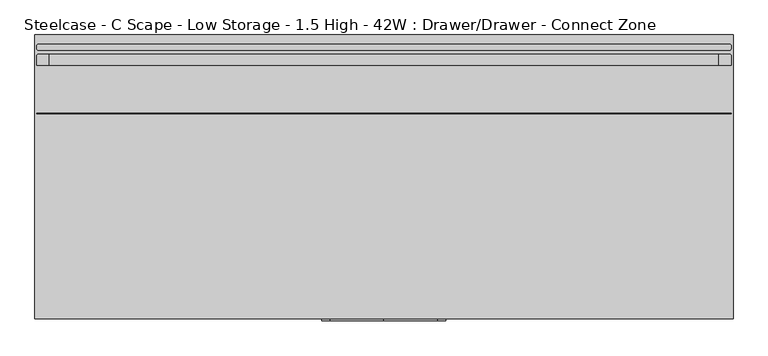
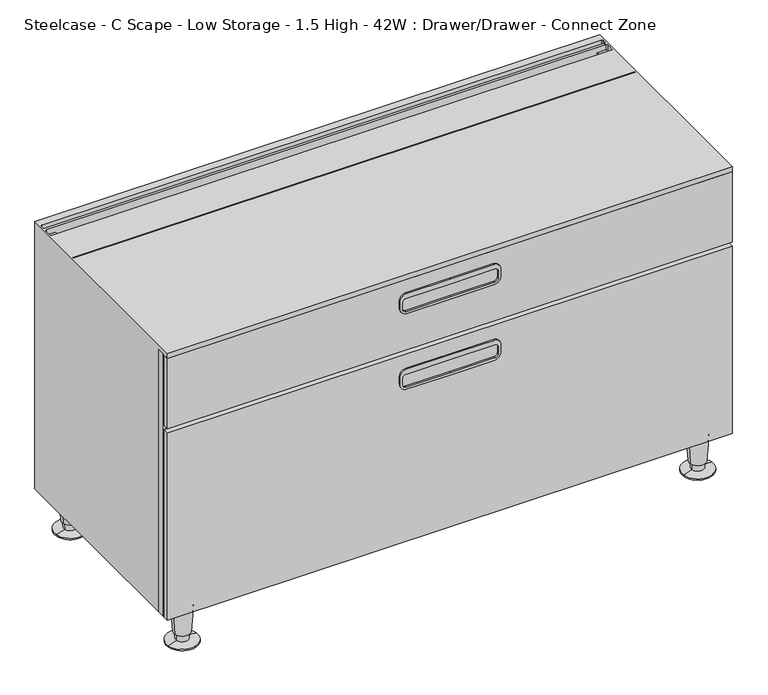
"""IFC4 building model written with IfcOpenShell, lengths in millimetres: furniture geometry, Steelcase - C Scape - Low Storage - 1.5 High - 42W : Drawer/Drawer - Connect Zone."""

from ifc_helpers import new_model, si_unit, point, frame, frame_2d, origin, place, context, project, spatial, polyline, circle_curve, trimmed, segment, composite_curve, outline, extrude, source, transform, mapped, element, save
from ifc_brep_helpers import plane_surface, cylinder_surface, revolved_surface, advanced_brep


def steelcase_c_scape_low_storage_1_5_high_42w_drawer_drawer_3f9bb7f9(model_context):
    return source(origin(), model_context, "Body", "SolidModel", [
        extrude(outline(polyline([(599.44, 532.2710512), (599.44, 0.0), (76.1999955, 0.0), (76.1999955, 1065.53), (599.44, 1065.53), (599.44, 532.2710512)]), holes=[polyline([(92.7100024, 1043.5617285), (92.7100024, 21.3382324), (582.93, 21.3382324), (582.93, 1043.5617285), (92.7100024, 1043.5617285)])]), frame((0.0, -419.3484735, 0.0), z_axis=(0.0, 1.0, 0.0), x_axis=(0.0, 0.0, 1.0)), (0.0, 0.0, 1.0), 14.9862946),
        extrude(outline(composite_curve([segment(trimmed(circle_curve(frame_2d((560.7050073, 450.2147442)), 12.7), [point((573.4050073, 450.2147442))], [point((560.7050073, 437.5147442))], False, "CARTESIAN"), True, "CONTINUOUS"), segment(polyline([(560.7050073, 437.5147442), (546.1000363, 437.5147442)]), True, "CONTINUOUS"), segment(trimmed(circle_curve(frame_2d((546.1000363, 450.2147442)), 12.7), [point((546.1000363, 437.5147442))], [point((533.4000363, 450.2147442))], False, "CARTESIAN"), True, "CONTINUOUS"), segment(polyline([(533.4000363, 450.2147442), (533.4000363, 532.4475), (533.4000363, 614.6802558)]), True, "CONTINUOUS"), segment(trimmed(circle_curve(frame_2d((546.1000363, 614.6802558)), 12.7), [point((533.4000363, 614.6802558))], [point((546.1000363, 627.3802558))], False, "CARTESIAN"), True, "CONTINUOUS"), segment(polyline([(546.1000363, 627.3802558), (560.7050073, 627.3802558)]), True, "CONTINUOUS"), segment(trimmed(circle_curve(frame_2d((560.7050073, 614.6802558)), 12.7), [point((560.7050073, 627.3802558))], [point((573.4050073, 614.6802558))], False, "CARTESIAN"), True, "CONTINUOUS"), segment(polyline([(573.4050073, 614.6802558), (573.4050073, 532.4475), (573.4050073, 450.2147442)]), True, "CONTINUOUS")], self_intersect=False), holes=[composite_curve([segment(trimmed(circle_curve(frame_2d((557.2760257, 448.6923565)), 6.35), [point((557.2760257, 442.3423565))], [point((563.6260257, 448.6923565))], True, "CARTESIAN"), True, "CONTINUOUS"), segment(polyline([(563.6260257, 448.6923565), (563.6260257, 532.4475), (563.6260257, 616.2026435)]), True, "CONTINUOUS"), segment(trimmed(circle_curve(frame_2d((557.2760257, 616.2026435)), 6.35), [point((563.6260257, 616.2026435))], [point((557.2760257, 622.5526435))], True, "CARTESIAN"), True, "CONTINUOUS"), segment(polyline([(557.2760257, 622.5526435), (544.5760136, 622.5526435)]), True, "CONTINUOUS"), segment(trimmed(circle_curve(frame_2d((544.5760136, 616.2026435)), 6.35), [point((544.5760136, 622.5526435))], [point((538.2260136, 616.2026435))], True, "CARTESIAN"), True, "CONTINUOUS"), segment(polyline([(538.2260136, 616.2026435), (538.2260136, 532.4475), (538.2260136, 448.6923565)]), True, "CONTINUOUS"), segment(trimmed(circle_curve(frame_2d((544.5760136, 448.6923565)), 6.35), [point((538.2260136, 448.6923565))], [point((544.5760136, 442.3423565))], True, "CARTESIAN"), True, "CONTINUOUS"), segment(polyline([(544.5760136, 442.3423565), (557.2760257, 442.3423565)]), True, "CONTINUOUS")], self_intersect=False)]), frame((0.0, -436.118, 0.0), z_axis=(0.0, 1.0, 0.0), x_axis=(0.0, 0.0, 1.0)), (0.0, 0.0, 1.0), 3.048),
        extrude(outline(composite_curve([segment(trimmed(circle_curve(frame_2d((409.5749879, 450.2147442)), 12.7), [point((422.2749879, 450.2147442))], [point((409.5749879, 437.5147442))], False, "CARTESIAN"), True, "CONTINUOUS"), segment(polyline([(409.5749879, 437.5147442), (394.970017, 437.5147442)]), True, "CONTINUOUS"), segment(trimmed(circle_curve(frame_2d((394.970017, 450.2147442)), 12.7), [point((394.970017, 437.5147442))], [point((382.270017, 450.2147442))], False, "CARTESIAN"), True, "CONTINUOUS"), segment(polyline([(382.270017, 450.2147442), (382.270017, 532.4475), (382.270017, 614.6802558)]), True, "CONTINUOUS"), segment(trimmed(circle_curve(frame_2d((394.970017, 614.6802558)), 12.7), [point((382.270017, 614.6802558))], [point((394.970017, 627.3802558))], False, "CARTESIAN"), True, "CONTINUOUS"), segment(polyline([(394.970017, 627.3802558), (409.5749879, 627.3802558)]), True, "CONTINUOUS"), segment(trimmed(circle_curve(frame_2d((409.5749879, 614.6802558)), 12.7), [point((409.5749879, 627.3802558))], [point((422.2749879, 614.6802558))], False, "CARTESIAN"), True, "CONTINUOUS"), segment(polyline([(422.2749879, 614.6802558), (422.2749879, 532.4475), (422.2749879, 450.2147442)]), True, "CONTINUOUS")], self_intersect=False), holes=[composite_curve([segment(trimmed(circle_curve(frame_2d((406.1460063, 448.6923565)), 6.35), [point((406.1460063, 442.3423565))], [point((412.4960063, 448.6923565))], True, "CARTESIAN"), True, "CONTINUOUS"), segment(polyline([(412.4960063, 448.6923565), (412.4960063, 532.4475), (412.4960063, 616.2026435)]), True, "CONTINUOUS"), segment(trimmed(circle_curve(frame_2d((406.1460063, 616.2026435)), 6.35), [point((412.4960063, 616.2026435))], [point((406.1460063, 622.5526435))], True, "CARTESIAN"), True, "CONTINUOUS"), segment(polyline([(406.1460063, 622.5526435), (393.4459942, 622.5526435)]), True, "CONTINUOUS"), segment(trimmed(circle_curve(frame_2d((393.4459942, 616.2026435)), 6.35), [point((393.4459942, 622.5526435))], [point((387.0959942, 616.2026435))], True, "CARTESIAN"), True, "CONTINUOUS"), segment(polyline([(387.0959942, 616.2026435), (387.0959942, 532.4475), (387.0959942, 448.6923565)]), True, "CONTINUOUS"), segment(trimmed(circle_curve(frame_2d((393.4459942, 448.6923565)), 6.35), [point((387.0959942, 448.6923565))], [point((393.4459942, 442.3423565))], True, "CARTESIAN"), True, "CONTINUOUS"), segment(polyline([(393.4459942, 442.3423565), (406.1460063, 442.3423565)]), True, "CONTINUOUS")], self_intersect=False)]), frame((0.0, -436.118, 0.0), z_axis=(0.0, 1.0, 0.0), x_axis=(0.0, 0.0, 1.0)), (0.0, 0.0, 1.0), 3.048),
        advanced_brep(
        [(1038.2598695, -31.5218435, 76.2), (1000.5981305, -37.2840847, 76.2), (1019.429, -34.4029641, 76.2), (1034.3095214, -32.1262463, 19.05), (1004.5484786, -36.6796819, 19.05), (1031.8799345, -32.4979728, 19.05), (1006.9780655, -36.3079555, 19.05), (1031.191165, -32.6033544, 5.7545598), (1007.666835, -36.2025738, 5.7545598), (1048.5400485, -29.9489775, 2.5119506), (990.3179515, -38.8569507, 2.5119506), (1048.5400485, -29.9489775, 0.0), (990.3179515, -38.8569507, 0.0), (1019.429, -34.4029641, 0.0)],
        [
            (0, 1, circle_curve(frame((1019.429, -34.4029641, 76.2), z_axis=(0.0, 0.0, 1.0), x_axis=(0.0, -1.0, 0.0)), 19.05)),
            (1, 2),
            (2, 0),
            (1, 0, circle_curve(frame((1019.429, -34.4029641, 76.2), z_axis=(0.0, 0.0, 1.0), x_axis=(0.0, -1.0, 0.0)), 19.05)),
            (3, 4, circle_curve(frame((1019.429, -34.4029641, 19.05), z_axis=(0.0, 0.0, 1.0), x_axis=(0.0, -1.0, 0.0)), 15.0536827)),
            (4, 1),
            (0, 3),
            (4, 3, circle_curve(frame((1019.429, -34.4029641, 19.05), z_axis=(0.0, 0.0, 1.0), x_axis=(0.0, -1.0, 0.0)), 15.0536827)),
            (5, 6, circle_curve(frame((1019.429, -34.4029641, 19.05), z_axis=(0.0, 0.0, 1.0), x_axis=(0.0, -1.0, 0.0)), 12.5958232)),
            (6, 4),
            (3, 5),
            (6, 5, circle_curve(frame((1019.429, -34.4029641, 19.05), z_axis=(0.0, 0.0, 1.0), x_axis=(0.0, -1.0, 0.0)), 12.5958232)),
            (7, 8, circle_curve(frame((1019.429, -34.4029641, 5.7545598), z_axis=(0.0, 0.0, 1.0), x_axis=(0.0, -1.0, 0.0)), 11.8990387)),
            (8, 6),
            (5, 7),
            (8, 7, circle_curve(frame((1019.429, -34.4029641, 5.7545598), z_axis=(0.0, 0.0, 1.0), x_axis=(0.0, -1.0, 0.0)), 11.8990387)),
            (9, 10, circle_curve(frame((1019.429, -34.4029641, 2.5119506), z_axis=(0.0, 0.0, 1.0), x_axis=(0.0, -1.0, 0.0)), 29.4498071)),
            (10, 8),
            (7, 9),
            (10, 9, circle_curve(frame((1019.429, -34.4029641, 2.5119506), z_axis=(0.0, 0.0, 1.0), x_axis=(0.0, -1.0, 0.0)), 29.4498071)),
            (11, 12, circle_curve(frame((1019.429, -34.4029641, 0.0), z_axis=(0.0, 0.0, 1.0), x_axis=(0.0, -1.0, 0.0)), 29.4498071)),
            (12, 10),
            (9, 11),
            (12, 11, circle_curve(frame((1019.429, -34.4029641, 0.0), z_axis=(0.0, 0.0, 1.0), x_axis=(0.0, -1.0, 0.0)), 29.4498071)),
            (13, 12),
            (11, 13),
        ],
        [
            plane_surface(frame((1019.429, -34.4029641, 76.2), z_axis=(0.0, 0.0, 1.0), x_axis=(0.0, -1.0, 0.0))),
            revolved_surface(polyline([(1019.429, -53.4529641, 76.2), (1019.429, -49.4566468, 19.05)]), (1019.429, -34.4029641, 25.4), (0.0, 0.0, -1.0)),
            plane_surface(frame((1019.429, -34.4029641, 19.05), z_axis=(0.0, 0.0, -1.0), x_axis=(0.0, -1.0, 0.0))),
            revolved_surface(polyline([(1019.429, -46.9987873, 19.05), (1019.429, -46.3020028, 5.7545598)]), (1019.429, -34.4029641, 25.4), (0.0, 0.0, -1.0)),
            revolved_surface(polyline([(1019.429, -46.3020028, 5.7545598), (1019.429, -63.8527712, 2.5119506)]), (1019.429, -34.4029641, 25.4), (0.0, 0.0, -1.0)),
            cylinder_surface(frame((1019.429, -34.4029641, 25.4), z_axis=(0.0, 0.0, -1.0), x_axis=(0.0, -1.0, 0.0)), 29.4498071),
            plane_surface(frame((1019.429, -34.4029641, 0.0), z_axis=(0.0, 0.0, -1.0), x_axis=(0.0, -1.0, 0.0))),
        ],
        [
            (0, [[1, 2, 3]]),
            (0, [[4, -3, -2]]),
            (1, [[5, 6, -1, 7]]),
            (1, [[8, -7, -4, -6]]),
            (2, [[9, 10, -5, 11]]),
            (2, [[12, -11, -8, -10]]),
            (3, [[13, 14, -9, 15]]),
            (3, [[16, -15, -12, -14]]),
            (4, [[17, 18, -13, 19]]),
            (4, [[20, -19, -16, -18]]),
            (5, [[21, 22, -17, 23]]),
            (5, [[24, -23, -20, -22]]),
            (6, [[25, -21, 26]]),
            (6, [[-26, -24, -25]]),
        ],
    ),
        advanced_brep(
        [(1038.2598695, -397.1702762, 76.2), (1000.5981305, -402.9325174, 76.2), (1019.429, -400.0513968, 76.2), (1034.3095214, -397.774679, 19.05), (1004.5484786, -402.3281146, 19.05), (1031.8799345, -398.1464055, 19.05), (1006.9780655, -401.9563882, 19.05), (1031.191165, -398.2517871, 5.7545598), (1007.666835, -401.8510065, 5.7545598), (1048.5400485, -395.5974102, 2.5119506), (990.3179515, -404.5053834, 2.5119506), (1048.5400485, -395.5974102, 0.0), (990.3179515, -404.5053834, 0.0), (1019.429, -400.0513968, 0.0)],
        [
            (0, 1, circle_curve(frame((1019.429, -400.0513968, 76.2), z_axis=(0.0, 0.0, 1.0), x_axis=(0.0, -1.0, 0.0)), 19.05)),
            (1, 2),
            (2, 0),
            (1, 0, circle_curve(frame((1019.429, -400.0513968, 76.2), z_axis=(0.0, 0.0, 1.0), x_axis=(0.0, -1.0, 0.0)), 19.05)),
            (3, 4, circle_curve(frame((1019.429, -400.0513968, 19.05), z_axis=(0.0, 0.0, 1.0), x_axis=(0.0, -1.0, 0.0)), 15.0536827)),
            (4, 1),
            (0, 3),
            (4, 3, circle_curve(frame((1019.429, -400.0513968, 19.05), z_axis=(0.0, 0.0, 1.0), x_axis=(0.0, -1.0, 0.0)), 15.0536827)),
            (5, 6, circle_curve(frame((1019.429, -400.0513968, 19.05), z_axis=(0.0, 0.0, 1.0), x_axis=(0.0, -1.0, 0.0)), 12.5958232)),
            (6, 4),
            (3, 5),
            (6, 5, circle_curve(frame((1019.429, -400.0513968, 19.05), z_axis=(0.0, 0.0, 1.0), x_axis=(0.0, -1.0, 0.0)), 12.5958232)),
            (7, 8, circle_curve(frame((1019.429, -400.0513968, 5.7545598), z_axis=(0.0, 0.0, 1.0), x_axis=(0.0, -1.0, 0.0)), 11.8990387)),
            (8, 6),
            (5, 7),
            (8, 7, circle_curve(frame((1019.429, -400.0513968, 5.7545598), z_axis=(0.0, 0.0, 1.0), x_axis=(0.0, -1.0, 0.0)), 11.8990387)),
            (9, 10, circle_curve(frame((1019.429, -400.0513968, 2.5119506), z_axis=(0.0, 0.0, 1.0), x_axis=(0.0, -1.0, 0.0)), 29.4498071)),
            (10, 8),
            (7, 9),
            (10, 9, circle_curve(frame((1019.429, -400.0513968, 2.5119506), z_axis=(0.0, 0.0, 1.0), x_axis=(0.0, -1.0, 0.0)), 29.4498071)),
            (11, 12, circle_curve(frame((1019.429, -400.0513968, 0.0), z_axis=(0.0, 0.0, 1.0), x_axis=(0.0, -1.0, 0.0)), 29.4498071)),
            (12, 10),
            (9, 11),
            (12, 11, circle_curve(frame((1019.429, -400.0513968, 0.0), z_axis=(0.0, 0.0, 1.0), x_axis=(0.0, -1.0, 0.0)), 29.4498071)),
            (13, 12),
            (11, 13),
        ],
        [
            plane_surface(frame((1019.429, -400.0513968, 76.2), z_axis=(0.0, 0.0, 1.0), x_axis=(0.0, -1.0, 0.0))),
            revolved_surface(polyline([(1019.429, -419.1013968, 76.2), (1019.429, -415.1050795, 19.05)]), (1019.429, -400.0513968, 25.4), (0.0, 0.0, -1.0)),
            plane_surface(frame((1019.429, -400.0513968, 19.05), z_axis=(0.0, 0.0, -1.0), x_axis=(0.0, -1.0, 0.0))),
            revolved_surface(polyline([(1019.429, -412.64722, 19.05), (1019.429, -411.9504355, 5.7545598)]), (1019.429, -400.0513968, 25.4), (0.0, 0.0, -1.0)),
            revolved_surface(polyline([(1019.429, -411.9504355, 5.7545598), (1019.429, -429.5012039, 2.5119506)]), (1019.429, -400.0513968, 25.4), (0.0, 0.0, -1.0)),
            cylinder_surface(frame((1019.429, -400.0513968, 25.4), z_axis=(0.0, 0.0, -1.0), x_axis=(0.0, -1.0, 0.0)), 29.4498071),
            plane_surface(frame((1019.429, -400.0513968, 0.0), z_axis=(0.0, 0.0, -1.0), x_axis=(0.0, -1.0, 0.0))),
        ],
        [
            (0, [[1, 2, 3]]),
            (0, [[4, -3, -2]]),
            (1, [[5, 6, -1, 7]]),
            (1, [[8, -7, -4, -6]]),
            (2, [[9, 10, -5, 11]]),
            (2, [[12, -11, -8, -10]]),
            (3, [[13, 14, -9, 15]]),
            (3, [[16, -15, -12, -14]]),
            (4, [[17, 18, -13, 19]]),
            (4, [[20, -19, -16, -18]]),
            (5, [[21, 22, -17, 23]]),
            (5, [[24, -23, -20, -22]]),
            (6, [[25, -21, 26]]),
            (6, [[-26, -24, -25]]),
        ],
    ),
        advanced_brep(
        [(65.5422821, -397.1702762, 76.2), (27.8805432, -402.9325174, 76.2), (46.7114126, -400.0513968, 76.2), (61.5919341, -397.774679, 19.05), (31.8308912, -402.3281146, 19.05), (59.1623471, -398.1464055, 19.05), (34.2604781, -401.9563882, 19.05), (58.4735776, -398.2517871, 5.7545598), (34.9492476, -401.8510065, 5.7545598), (75.8224611, -395.5974102, 2.5119506), (17.6003641, -404.5053834, 2.5119506), (75.8224611, -395.5974102, 0.0), (17.6003641, -404.5053834, 0.0), (46.7114126, -400.0513968, 0.0)],
        [
            (0, 1, circle_curve(frame((46.7114126, -400.0513968, 76.2), z_axis=(0.0, 0.0, 1.0), x_axis=(0.0, -1.0, 0.0)), 19.05)),
            (1, 2),
            (2, 0),
            (1, 0, circle_curve(frame((46.7114126, -400.0513968, 76.2), z_axis=(0.0, 0.0, 1.0), x_axis=(0.0, -1.0, 0.0)), 19.05)),
            (3, 4, circle_curve(frame((46.7114126, -400.0513968, 19.05), z_axis=(0.0, 0.0, 1.0), x_axis=(0.0, -1.0, 0.0)), 15.0536827)),
            (4, 1),
            (0, 3),
            (4, 3, circle_curve(frame((46.7114126, -400.0513968, 19.05), z_axis=(0.0, 0.0, 1.0), x_axis=(0.0, -1.0, 0.0)), 15.0536827)),
            (5, 6, circle_curve(frame((46.7114126, -400.0513968, 19.05), z_axis=(0.0, 0.0, 1.0), x_axis=(0.0, -1.0, 0.0)), 12.5958232)),
            (6, 4),
            (3, 5),
            (6, 5, circle_curve(frame((46.7114126, -400.0513968, 19.05), z_axis=(0.0, 0.0, 1.0), x_axis=(0.0, -1.0, 0.0)), 12.5958232)),
            (7, 8, circle_curve(frame((46.7114126, -400.0513968, 5.7545598), z_axis=(0.0, 0.0, 1.0), x_axis=(0.0, -1.0, 0.0)), 11.8990387)),
            (8, 6),
            (5, 7),
            (8, 7, circle_curve(frame((46.7114126, -400.0513968, 5.7545598), z_axis=(0.0, 0.0, 1.0), x_axis=(0.0, -1.0, 0.0)), 11.8990387)),
            (9, 10, circle_curve(frame((46.7114126, -400.0513968, 2.5119506), z_axis=(0.0, 0.0, 1.0), x_axis=(0.0, -1.0, 0.0)), 29.4498071)),
            (10, 8),
            (7, 9),
            (10, 9, circle_curve(frame((46.7114126, -400.0513968, 2.5119506), z_axis=(0.0, 0.0, 1.0), x_axis=(0.0, -1.0, 0.0)), 29.4498071)),
            (11, 12, circle_curve(frame((46.7114126, -400.0513968, 0.0), z_axis=(0.0, 0.0, 1.0), x_axis=(0.0, -1.0, 0.0)), 29.4498071)),
            (12, 10),
            (9, 11),
            (12, 11, circle_curve(frame((46.7114126, -400.0513968, 0.0), z_axis=(0.0, 0.0, 1.0), x_axis=(0.0, -1.0, 0.0)), 29.4498071)),
            (13, 12),
            (11, 13),
        ],
        [
            plane_surface(frame((46.7114126, -400.0513968, 76.2), z_axis=(0.0, 0.0, 1.0), x_axis=(0.0, -1.0, 0.0))),
            revolved_surface(polyline([(46.7114126, -419.1013968, 76.2), (46.7114126, -415.1050795, 19.05)]), (46.7114126, -400.0513968, 25.4), (0.0, 0.0, -1.0)),
            plane_surface(frame((46.7114126, -400.0513968, 19.05), z_axis=(0.0, 0.0, -1.0), x_axis=(0.0, -1.0, 0.0))),
            revolved_surface(polyline([(46.7114126, -412.64722, 19.05), (46.7114126, -411.9504355, 5.7545598)]), (46.7114126, -400.0513968, 25.4), (0.0, 0.0, -1.0)),
            revolved_surface(polyline([(46.7114126, -411.9504355, 5.7545598), (46.7114126, -429.5012039, 2.5119506)]), (46.7114126, -400.0513968, 25.4), (0.0, 0.0, -1.0)),
            cylinder_surface(frame((46.7114126, -400.0513968, 25.4), z_axis=(0.0, 0.0, -1.0), x_axis=(0.0, -1.0, 0.0)), 29.4498071),
            plane_surface(frame((46.7114126, -400.0513968, 0.0), z_axis=(0.0, 0.0, -1.0), x_axis=(0.0, -1.0, 0.0))),
        ],
        [
            (0, [[1, 2, 3]]),
            (0, [[4, -3, -2]]),
            (1, [[5, 6, -1, 7]]),
            (1, [[8, -7, -4, -6]]),
            (2, [[9, 10, -5, 11]]),
            (2, [[12, -11, -8, -10]]),
            (3, [[13, 14, -9, 15]]),
            (3, [[16, -15, -12, -14]]),
            (4, [[17, 18, -13, 19]]),
            (4, [[20, -19, -16, -18]]),
            (5, [[21, 22, -17, 23]]),
            (5, [[24, -23, -20, -22]]),
            (6, [[25, -21, 26]]),
            (6, [[-26, -24, -25]]),
        ],
    ),
        advanced_brep(
        [(65.5422821, -31.5218435, 76.2), (27.8805432, -37.2840847, 76.2), (46.7114126, -34.4029641, 76.2), (61.5919341, -32.1262463, 19.05), (31.8308912, -36.6796819, 19.05), (59.1623471, -32.4979728, 19.05), (34.2604781, -36.3079555, 19.05), (58.4735776, -32.6033544, 5.7545598), (34.9492476, -36.2025738, 5.7545598), (75.8224611, -29.9489775, 2.5119506), (17.6003641, -38.8569507, 2.5119506), (75.8224611, -29.9489775, 0.0), (17.6003641, -38.8569507, 0.0), (46.7114126, -34.4029641, 0.0)],
        [
            (0, 1, circle_curve(frame((46.7114126, -34.4029641, 76.2), z_axis=(0.0, 0.0, 1.0), x_axis=(0.0, -1.0, 0.0)), 19.05)),
            (1, 2),
            (2, 0),
            (1, 0, circle_curve(frame((46.7114126, -34.4029641, 76.2), z_axis=(0.0, 0.0, 1.0), x_axis=(0.0, -1.0, 0.0)), 19.05)),
            (3, 4, circle_curve(frame((46.7114126, -34.4029641, 19.05), z_axis=(0.0, 0.0, 1.0), x_axis=(0.0, -1.0, 0.0)), 15.0536827)),
            (4, 1),
            (0, 3),
            (4, 3, circle_curve(frame((46.7114126, -34.4029641, 19.05), z_axis=(0.0, 0.0, 1.0), x_axis=(0.0, -1.0, 0.0)), 15.0536827)),
            (5, 6, circle_curve(frame((46.7114126, -34.4029641, 19.05), z_axis=(0.0, 0.0, 1.0), x_axis=(0.0, -1.0, 0.0)), 12.5958232)),
            (6, 4),
            (3, 5),
            (6, 5, circle_curve(frame((46.7114126, -34.4029641, 19.05), z_axis=(0.0, 0.0, 1.0), x_axis=(0.0, -1.0, 0.0)), 12.5958232)),
            (7, 8, circle_curve(frame((46.7114126, -34.4029641, 5.7545598), z_axis=(0.0, 0.0, 1.0), x_axis=(0.0, -1.0, 0.0)), 11.8990387)),
            (8, 6),
            (5, 7),
            (8, 7, circle_curve(frame((46.7114126, -34.4029641, 5.7545598), z_axis=(0.0, 0.0, 1.0), x_axis=(0.0, -1.0, 0.0)), 11.8990387)),
            (9, 10, circle_curve(frame((46.7114126, -34.4029641, 2.5119506), z_axis=(0.0, 0.0, 1.0), x_axis=(0.0, -1.0, 0.0)), 29.4498071)),
            (10, 8),
            (7, 9),
            (10, 9, circle_curve(frame((46.7114126, -34.4029641, 2.5119506), z_axis=(0.0, 0.0, 1.0), x_axis=(0.0, -1.0, 0.0)), 29.4498071)),
            (11, 12, circle_curve(frame((46.7114126, -34.4029641, 0.0), z_axis=(0.0, 0.0, 1.0), x_axis=(0.0, -1.0, 0.0)), 29.4498071)),
            (12, 10),
            (9, 11),
            (12, 11, circle_curve(frame((46.7114126, -34.4029641, 0.0), z_axis=(0.0, 0.0, 1.0), x_axis=(0.0, -1.0, 0.0)), 29.4498071)),
            (13, 12),
            (11, 13),
        ],
        [
            plane_surface(frame((46.7114126, -34.4029641, 76.2), z_axis=(0.0, 0.0, 1.0), x_axis=(0.0, -1.0, 0.0))),
            revolved_surface(polyline([(46.7114126, -53.4529641, 76.2), (46.7114126, -49.4566468, 19.05)]), (46.7114126, -34.4029641, 25.4), (0.0, 0.0, -1.0)),
            plane_surface(frame((46.7114126, -34.4029641, 19.05), z_axis=(0.0, 0.0, -1.0), x_axis=(0.0, -1.0, 0.0))),
            revolved_surface(polyline([(46.7114126, -46.9987873, 19.05), (46.7114126, -46.3020028, 5.7545598)]), (46.7114126, -34.4029641, 25.4), (0.0, 0.0, -1.0)),
            revolved_surface(polyline([(46.7114126, -46.3020028, 5.7545598), (46.7114126, -63.8527712, 2.5119506)]), (46.7114126, -34.4029641, 25.4), (0.0, 0.0, -1.0)),
            cylinder_surface(frame((46.7114126, -34.4029641, 25.4), z_axis=(0.0, 0.0, -1.0), x_axis=(0.0, -1.0, 0.0)), 29.4498071),
            plane_surface(frame((46.7114126, -34.4029641, 0.0), z_axis=(0.0, 0.0, -1.0), x_axis=(0.0, -1.0, 0.0))),
        ],
        [
            (0, [[1, 2, 3]]),
            (0, [[4, -3, -2]]),
            (1, [[5, 6, -1, 7]]),
            (1, [[8, -7, -4, -6]]),
            (2, [[9, 10, -5, 11]]),
            (2, [[12, -11, -8, -10]]),
            (3, [[13, 14, -9, 15]]),
            (3, [[16, -15, -12, -14]]),
            (4, [[17, 18, -13, 19]]),
            (4, [[20, -19, -16, -18]]),
            (5, [[21, 22, -17, 23]]),
            (5, [[24, -23, -20, -22]]),
            (6, [[25, -21, 26]]),
            (6, [[-26, -24, -25]]),
        ],
    ),
        advanced_brep(
        [(1062.7272317, -120.6444193, 609.6), (1062.7272317, -119.3775195, 609.6), (1062.7272317, -119.3775195, 599.44), (1062.7272317, -120.6444193, 599.44), (1062.7272317, -46.4703418, 609.6), (1062.7272317, -32.274699, 609.6), (1062.7272317, -32.274699, 599.44), (1062.7272317, -46.4703418, 599.44), (1062.7272317, -20.3138654, 609.6), (1062.7272317, -17.0388453, 609.6), (1062.7272317, -17.0388453, 599.44), (1062.7272317, -20.3138654, 599.44), (1065.53, 0.0055807, 609.6), (1065.53, -433.07, 609.6), (1065.53, -433.07, 599.44), (1065.53, -404.362179, 599.44), (1065.53, -404.362179, 76.2), (1065.53, 0.0055807, 76.2), (0.0, -433.07, 609.6), (-0.012551, 0.0055807, 609.6), (1060.0308823, -29.5783496, 609.6), (2.7826272, -46.4703418, 609.6), (2.7826272, -32.0458511, 609.6), (5.2501287, -29.5783496, 609.6), (1059.7507358, -23.2903613, 609.6), (5.5670648, -23.2903613, 609.6), (2.7826272, -20.5059237, 609.6), (2.7826272, -17.0388453, 609.6), (5.4794022, -14.3420703, 609.6), (1060.0304567, -14.3420703, 609.6), (2.7826272, -119.3775195, 609.6), (2.7826272, -120.6444193, 609.6), (0.0, 0.0055807, 76.2), (648.0775189, 0.0055807, 466.2677968), (416.8174811, 0.0055807, 466.2677968), (416.8174811, 0.0055807, 432.6382043), (532.4475, 0.0055807, 432.6382043), (648.0775189, 0.0055807, 432.6382043), (648.0775189, -9.5194193, 466.2677968), (416.8174811, -9.5194193, 466.2677968), (648.0775189, -9.5194193, 435.8005068), (416.8174811, -9.5194193, 435.8005068), (5.2501287, -29.5783496, 599.44), (21.3382324, -29.5783496, 599.44), (21.3382324, -29.5783496, 458.7875121), (1043.5617285, -29.5783496, 458.7875121), (1043.5617285, -29.5783496, 599.44), (1060.0308823, -29.5783496, 599.44), (1043.5617285, -119.3775195, 599.44), (21.3382324, -119.3775195, 599.44), (21.3382324, -46.4703418, 599.44), (1043.5617285, -46.4703418, 599.44), (1059.7507358, -23.2903613, 599.44), (5.5670648, -23.2903613, 599.44), (2.7826272, -20.5059237, 599.44), (2.7826272, -32.0458511, 599.44), (2.7826272, -46.4703418, 599.44), (2.7826272, -119.3775195, 599.44), (5.4794022, -14.3420703, 599.44), (1060.0304567, -14.3420703, 599.44), (2.7826272, -17.0388453, 599.44), (21.3382324, -120.6444193, 599.44), (2.7826272, -120.6444193, 599.44), (1043.5617285, -120.6444193, 599.44), (21.3382324, -404.362179, 92.7100024), (1043.5617285, -404.362179, 92.7100024), (1043.5617285, -9.5194193, 92.7100024), (21.3382324, -9.5194193, 92.7100024), (0.0, -404.362179, 76.2), (21.3382324, -404.362179, 458.7875121), (21.3382324, -404.362179, 599.44), (0.0, -404.362179, 599.44), (1043.5617285, -404.362179, 599.44), (1043.5617285, -404.362179, 458.7875121), (21.3382324, -404.362179, 435.8005068), (1043.5617285, -404.362179, 435.8005068), (0.0, -433.07, 599.44), (21.3382324, -126.9863574, 599.44), (1043.5617285, -126.9863574, 599.44), (21.3382324, -126.9863574, 458.7875121), (1043.5617285, -126.9863574, 458.7875121), (1043.5617285, -120.6444193, 458.7875121), (21.3382324, -120.6444193, 458.7875121), (21.3382324, -9.5194193, 435.8005068), (1043.5617285, -9.5194193, 435.8005068), (648.0775189, -9.5194193, 432.6382043), (532.4475, -9.5194193, 432.6382043), (416.8174811, -9.5194193, 432.6382043)],
        [
            (0, 1),
            (1, 2),
            (2, 3),
            (3, 0),
            (4, 5),
            (5, 6),
            (6, 7),
            (7, 4),
            (8, 9),
            (9, 10),
            (10, 11),
            (11, 8),
            (12, 13),
            (13, 14),
            (14, 15),
            (15, 16),
            (16, 17),
            (17, 12),
            (18, 13),
            (12, 19),
            (19, 18),
            (20, 5, circle_curve(frame((1060.0308823, -32.274699, 609.6), z_axis=(0.0, 0.0, -1.0), x_axis=(1.0, 0.0, 0.0)), 2.6963494)),
            (4, 21),
            (21, 22),
            (22, 23, circle_curve(frame((5.2501287, -32.0458511, 609.6), z_axis=(0.0, 0.0, -1.0), x_axis=(1.0, 0.0, 0.0)), 2.4675015)),
            (23, 20),
            (8, 24, circle_curve(frame((1059.7507358, -20.3138654, 609.6), z_axis=(0.0, 0.0, -1.0), x_axis=(1.0, 0.0, 0.0)), 2.9764959)),
            (24, 25),
            (25, 26, circle_curve(frame((5.5670648, -20.5059237, 609.6), z_axis=(0.0, 0.0, -1.0), x_axis=(1.0, 0.0, 0.0)), 2.7844376)),
            (26, 27),
            (27, 28, circle_curve(frame((5.4794022, -17.0388453, 609.6), z_axis=(0.0, 0.0, -1.0), x_axis=(1.0, 0.0, 0.0)), 2.696775)),
            (28, 29),
            (29, 9, circle_curve(frame((1060.0304567, -17.0388453, 609.6), z_axis=(0.0, 0.0, -1.0), x_axis=(1.0, 0.0, 0.0)), 2.696775)),
            (30, 1),
            (0, 31),
            (31, 30),
            (17, 32),
            (32, 19),
            (33, 34),
            (34, 35),
            (35, 36),
            (36, 37),
            (37, 33),
            (33, 38),
            (38, 39),
            (39, 34),
            (38, 40),
            (40, 41),
            (41, 39),
            (23, 42),
            (42, 43),
            (43, 44),
            (44, 45),
            (45, 46),
            (46, 47),
            (47, 20),
            (48, 49),
            (49, 50),
            (50, 51),
            (51, 48),
            (47, 6, circle_curve(frame((1060.0308823, -32.274699, 599.44), z_axis=(0.0, 0.0, -1.0), x_axis=(1.0, 0.0, 0.0)), 2.6963494)),
            (11, 52, circle_curve(frame((1059.7507358, -20.3138654, 599.44), z_axis=(0.0, 0.0, -1.0), x_axis=(1.0, 0.0, 0.0)), 2.9764959)),
            (52, 24),
            (52, 53),
            (53, 25),
            (53, 54, circle_curve(frame((5.5670648, -20.5059237, 599.44), z_axis=(0.0, 0.0, -1.0), x_axis=(1.0, 0.0, 0.0)), 2.7844376)),
            (54, 26),
            (22, 55),
            (55, 42, circle_curve(frame((5.2501287, -32.0458511, 599.44), z_axis=(0.0, 0.0, -1.0), x_axis=(1.0, 0.0, 0.0)), 2.4675015)),
            (7, 51),
            (50, 56),
            (56, 21),
            (30, 57),
            (57, 49),
            (48, 2),
            (28, 58),
            (58, 59),
            (59, 29),
            (59, 10, circle_curve(frame((1060.0304567, -17.0388453, 599.44), z_axis=(0.0, 0.0, -1.0), x_axis=(1.0, 0.0, 0.0)), 2.696775)),
            (27, 60),
            (60, 58, circle_curve(frame((5.4794022, -17.0388453, 599.44), z_axis=(0.0, 0.0, -1.0), x_axis=(1.0, 0.0, 0.0)), 2.696775)),
            (61, 49),
            (57, 62),
            (62, 61),
            (48, 63),
            (63, 3),
            (60, 54),
            (50, 43),
            (55, 56),
            (46, 51),
            (64, 65),
            (65, 66),
            (66, 67),
            (67, 64),
            (16, 68),
            (68, 32),
            (69, 70),
            (70, 71),
            (71, 68),
            (15, 72),
            (72, 73),
            (73, 69),
            (64, 74),
            (74, 75),
            (75, 65),
            (18, 76),
            (76, 14),
            (76, 71),
            (70, 77),
            (77, 78),
            (78, 72),
            (77, 79),
            (79, 80),
            (80, 78),
            (63, 81),
            (81, 82),
            (82, 61),
            (62, 31),
            (44, 82),
            (81, 45),
            (79, 69),
            (73, 80),
            (74, 83),
            (83, 41),
            (40, 84),
            (84, 75),
            (67, 83),
            (84, 66),
            (85, 86),
            (86, 87),
            (87, 41),
            (40, 85),
            (37, 85),
            (36, 86),
            (35, 87),
        ],
        [
            plane_surface(frame((1062.7272317, -120.6444193, 609.6), z_axis=(-1.0, 0.0, 0.0), x_axis=(0.0, 0.0, 1.0))),
            plane_surface(frame((1065.53, -120.6444193, 609.6), z_axis=(1.0, 0.0, 0.0), x_axis=(0.0, 0.0, -1.0))),
            plane_surface(frame((1062.7272317, -120.6444193, 609.6), z_axis=(0.0, 0.0, 1.0), x_axis=(1.0, 0.0, 0.0))),
            plane_surface(frame((1062.7272317, 0.0055807, 609.6), z_axis=(0.0, 1.0, 0.0), x_axis=(1.0, 0.0, 0.0))),
            plane_surface(frame((1062.7272317, 0.0055807, 466.2677968), z_axis=(0.0, 0.0, -1.0), x_axis=(1.0, 0.0, 0.0))),
            plane_surface(frame((1062.7272317, -9.5194193, 466.2677968), z_axis=(0.0, 1.0, 0.0), x_axis=(1.0, 0.0, 0.0))),
            plane_surface(frame((1062.7272317, -29.5783496, 458.7875121), z_axis=(0.0, -1.0, 0.0), x_axis=(1.0, 0.0, 0.0))),
            plane_surface(frame((1062.7272317, -29.5783496, 599.44), z_axis=(0.0, 0.0, -1.0), x_axis=(1.0, 0.0, 0.0))),
            revolved_surface(polyline([(1062.7272317, -32.274699, 599.44), (1062.7272317, -32.274699, 609.6)]), (1060.0308823, -32.274699, 599.44), (0.0, 0.0, -1.0)),
            revolved_surface(polyline([(1062.7272317, -20.3138654, 599.44), (1062.7272317, -20.3138654, 609.6)]), (1059.7507358, -20.3138654, 599.44), (0.0, 0.0, -1.0)),
            plane_surface(frame((1059.7507358, -23.2903613, 609.6), z_axis=(0.0, 1.0, 0.0), x_axis=(0.0, 0.0, -1.0))),
            revolved_surface(polyline([(8.3515024, -20.5059237, 599.44), (8.3515024, -20.5059237, 609.6)]), (5.5670648, -20.5059237, 599.44), (0.0, 0.0, -1.0)),
            revolved_surface(polyline([(7.7176302, -32.0458511, 599.44), (7.7176302, -32.0458511, 609.6)]), (5.2501287, -32.0458511, 599.44), (0.0, 0.0, -1.0)),
            plane_surface(frame((1062.7272317, -46.4703418, 609.6), z_axis=(0.0, 1.0, 0.0), x_axis=(0.0, 0.0, -1.0))),
            plane_surface(frame((2.7826272, -119.3775195, 609.6), z_axis=(0.0, -1.0, 0.0), x_axis=(0.0, 0.0, -1.0))),
            plane_surface(frame((5.4794022, -14.3420703, 609.6), z_axis=(0.0, -1.0, 0.0), x_axis=(0.0, 0.0, -1.0))),
            revolved_surface(polyline([(1062.7272317, -17.0388453, 599.44), (1062.7272317, -17.0388453, 609.6)]), (1060.0304567, -17.0388453, 41.6295811), (0.0, 0.0, -1.0)),
            revolved_surface(polyline([(8.1761772, -17.0388453, 599.44), (8.1761772, -17.0388453, 609.6)]), (5.4794022, -17.0388453, 41.6295811), (0.0, 0.0, -1.0)),
            plane_surface(frame((1062.7272317, 0.0055807, 599.44), z_axis=(0.0, 0.0, 1.0), x_axis=(-1.0, 0.0, 0.0))),
            plane_surface(frame((0.0, 0.0, 92.7100024), z_axis=(0.0, 0.0, 1.0), x_axis=(-1.0, 0.0, 0.0))),
            plane_surface(frame((0.0, 0.0, 76.2), z_axis=(0.0, 0.0, -1.0), x_axis=(1.0, 0.0, 0.0))),
            plane_surface(frame((21.3382324, -404.362179, 92.7100024), z_axis=(0.0, -1.0, 0.0), x_axis=(0.0, 0.0, -1.0))),
            plane_surface(frame((1065.53, -433.07, 609.6), z_axis=(0.0, -1.0, 0.0), x_axis=(-1.0, 0.0, 0.0))),
            plane_surface(frame((1065.53, -433.07, 599.44), z_axis=(0.0, 0.0, -1.0), x_axis=(-1.0, 0.0, 0.0))),
            plane_surface(frame((1065.53, -126.9863574, 599.44), z_axis=(0.0, -1.0, 0.0), x_axis=(-1.0, 0.0, 0.0))),
            plane_surface(frame((1065.53, -120.6444193, 457.1999955), z_axis=(0.0, 1.0, 0.0), x_axis=(-1.0, 0.0, 0.0))),
            plane_surface(frame((0.0, -9.5194193, 458.7875121), z_axis=(0.0, 0.0, 1.0), x_axis=(-1.0, 0.0, 0.0))),
            plane_surface(frame((0.0, -9.5194193, 435.8005068), z_axis=(0.0, 0.0, -1.0), x_axis=(1.0, 0.0, 0.0))),
            plane_surface(frame((21.3382324, -404.362179, 599.44), z_axis=(1.0, 0.0, 0.0), x_axis=(0.0, 0.0, -1.0))),
            plane_surface(frame((1043.5617285, -9.5194193, 599.44), z_axis=(-1.0, 0.0, 0.0), x_axis=(0.0, 0.0, -1.0))),
            plane_surface(frame((2.7826272, -120.6444193, 599.44), z_axis=(1.0, 0.0, 0.0), x_axis=(0.0, 1.0, 0.0))),
            plane_surface(frame((648.0775189, -9.5194193, 459.9177968), z_axis=(0.0, -1.0, 0.0), x_axis=(0.0, 0.0, -1.0))),
            plane_surface(frame((648.0775189, -9.5194193, 466.2677968), z_axis=(-1.0, 0.0, 0.0), x_axis=(0.0, 1.0, 0.0))),
            plane_surface(frame((648.0775189, -9.5194193, 432.6382043), z_axis=(0.0, 0.0, 1.0), x_axis=(0.0, 1.0, 0.0))),
            plane_surface(frame((532.4475, -9.5194193, 432.6382043), z_axis=(0.0, 0.0, 1.0), x_axis=(0.0, 1.0, 0.0))),
            plane_surface(frame((416.8174811, -9.5194193, 432.6382043), z_axis=(1.0, 0.0, 0.0), x_axis=(0.0, 1.0, 0.0))),
            plane_surface(frame((0.0, -433.07, 609.6), z_axis=(-1.0, 0.0, 0.0), x_axis=(0.0, 1.0, 0.0))),
        ],
        [
            (0, [[1, 2, 3, 4]]),
            (0, [[5, 6, 7, 8]]),
            (0, [[9, 10, 11, 12]]),
            (1, [[13, 14, 15, 16, 17, 18]]),
            (2, [[19, -13, 20, 21], [22, -5, 23, 24, 25, 26], [27, 28, 29, 30, 31, 32, 33, -9], [34, -1, 35, 36]]),
            (3, [[-18, 37, 38, -20], [39, 40, 41, 42, 43]]),
            (4, [[-39, 44, 45, 46]]),
            (5, [[-45, 47, 48, 49]]),
            (6, [[-26, 50, 51, 52, 53, 54, 55, 56]]),
            (7, [[57, 58, 59, 60]]),
            (8, [[-22, -56, 61, -6]]),
            (9, [[-27, -12, 62, 63]]),
            (10, [[-28, -63, 64, 65]]),
            (11, [[-29, -65, 66, 67]]),
            (12, [[-25, 68, 69, -50]]),
            (13, [[-23, -8, 70, -59, 71, 72]]),
            (14, [[-34, 73, 74, -57, 75, -2]]),
            (15, [[-32, 76, 77, 78]]),
            (16, [[-33, -78, 79, -10]]),
            (17, [[-31, 80, 81, -76]]),
            (18, [[82, -74, 83, 84]]),
            (18, [[85, 86, -3, -75]]),
            (18, [[-11, -79, -77, -81, 87, -66, -64, -62]]),
            (18, [[88, -51, -69, 89, -71]]),
            (18, [[90, -70, -7, -61, -55]]),
            (19, [[91, 92, 93, 94]]),
            (20, [[-37, -17, 95, 96]]),
            (21, [[97, 98, 99, -95, -16, 100, 101, 102], [-91, 103, 104, 105]]),
            (22, [[-14, -19, 106, 107]]),
            (23, [[-107, 108, -98, 109, 110, 111, -100, -15]]),
            (24, [[-110, 112, 113, 114]]),
            (25, [[-4, -86, 115, 116, 117, -84, 118, -35]]),
            (26, [[-53, 119, -116, 120]]),
            (26, [[-113, 121, -102, 122]]),
            (27, [[-104, 123, 124, -48, 125, 126]]),
            (28, [[-103, -94, 127, -123]]),
            (28, [[-97, -121, -112, -109]]),
            (28, [[-88, -58, -82, -117, -119, -52]]),
            (29, [[-105, -126, 128, -92]]),
            (29, [[-101, -111, -114, -122]]),
            (29, [[-90, -54, -120, -115, -85, -60]]),
            (30, [[-24, -72, -89, -68]]),
            (30, [[-30, -67, -87, -80]]),
            (30, [[-36, -118, -83, -73]]),
            (31, [[129, 130, 131, -124, -127, -93, -128, -125, 132]]),
            (32, [[-43, 133, -132, -47, -44]]),
            (33, [[-129, -133, -42, 134]]),
            (34, [[-130, -134, -41, 135]]),
            (35, [[-40, -46, -49, -131, -135]]),
            (36, [[-106, -21, -38, -96, -99, -108]]),
        ],
    ),
        extrude(outline(polyline([(1065.53, -422.5233329), (1065.53, -433.07), (0.0, -433.07), (0.0, -422.5233329), (1065.53, -422.5233329)])), frame((0.0, 0.0, 458.7875121), z_axis=(0.0, 0.0, 1.0), x_axis=(1.0, 0.0, 0.0)), (0.0, 0.0, 1.0), 140.6524879),
        extrude(outline(polyline([(1065.53, -422.5233329), (1065.53, -433.07), (0.0, -433.07), (0.0, -422.5233329), (1065.53, -422.5233329)])), frame((0.0, 0.0, 76.2), z_axis=(0.0, 0.0, 1.0), x_axis=(1.0, 0.0, 0.0)), (0.0, 0.0, 1.0), 374.6499879),
    ])


if __name__ == "__main__":
    model = new_model("IFC4")
    model_context = context("Model", 3, world=origin())
    ifc_project = project(units=[si_unit("LENGTHUNIT", "METRE", prefix="MILLI")], contexts=[model_context])
    site = spatial("IfcSite", under=ifc_project)
    building = spatial("IfcBuilding", under=site)
    placement = place(None, origin())
    steelcase_c_scape_low_storage_1_5_high_42w_drawer_drawer_shape = steelcase_c_scape_low_storage_1_5_high_42w_drawer_drawer_3f9bb7f9(model_context)
    element("IfcFurniture", 1, ObjectType="Steelcase - C Scape - Low Storage - 1.5 High - 42W : Drawer/Drawer - Connect Zone", at=placement, inside=building, context=model_context, shape_type="MappedRepresentation", body=[
        mapped(steelcase_c_scape_low_storage_1_5_high_42w_drawer_drawer_shape, transform((0.0, 0.0, 0.0), x_axis=(1.0, 0.0, 0.0), y_axis=(0.0, 1.0, 0.0), z_axis=(0.0, 0.0, 1.0))),
    ])
    save(model, "model.ifc")
